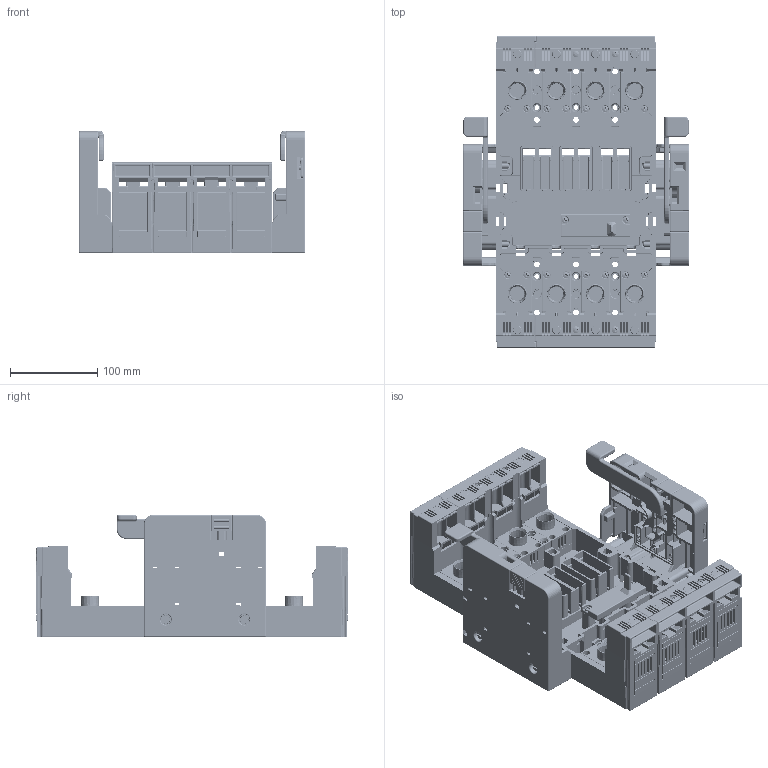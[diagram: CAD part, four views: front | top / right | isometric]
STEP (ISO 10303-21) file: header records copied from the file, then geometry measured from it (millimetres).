
FILE_DESCRIPTION (( 'STEP AP214' ), '1' );
FILE_NAME ('ZV-BH-0630-400.step', '2011-08-24T08:01:41', ( 'Radek Veselý' ), ( 'Siemens and Partners' ), 'SwSTEP 2.0', 'SolidWorks 2006303', '' );
FILE_SCHEMA (( 'AUTOMOTIVE_DESIGN' ));
Length unit declared in the file: millimetre
Products named in the file (1): ZV-BH-0630-400
Bounding box: 259.88 x 358 x 140 mm (x, y, z)
Volume: 1739283.9 mm3; surface area: 1100385.7 mm2
Topology: 58 solids, 58 shells, 13035 faces, 34766 edges, 21938 vertices
Faces by surface type: plane 7977, cylinder 3404, bspline 588, cone 380, torus 376, sphere 310
Entity records: 567733 total; most frequent: CARTESIAN_POINT 105104, ORIENTED_EDGE 68828, DIRECTION 63178, EDGE_CURVE 34414, VECTOR 24370, LINE 24370, VERTEX_POINT 21938, AXIS2_PLACEMENT_3D 19404
